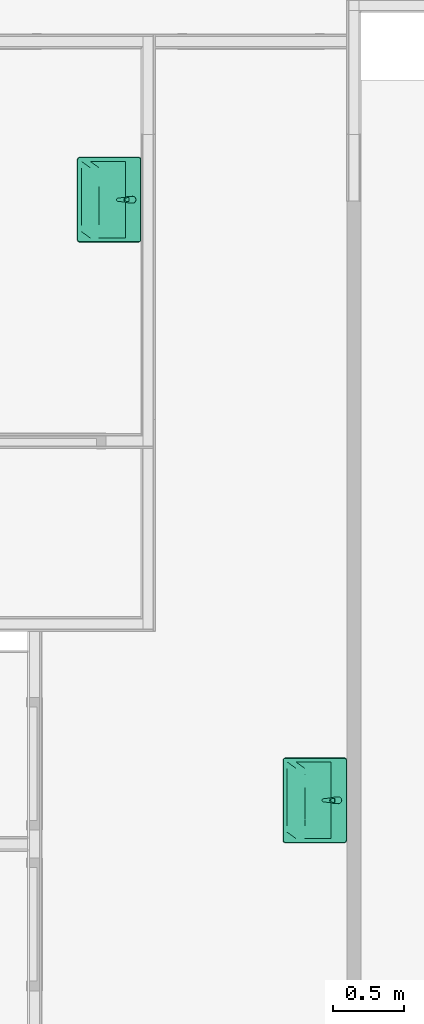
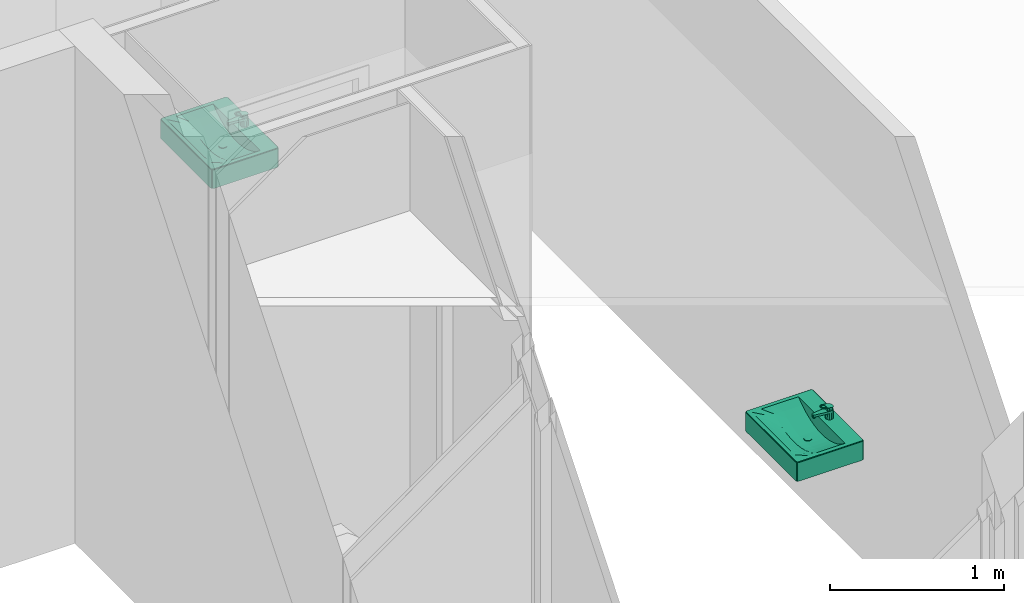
# One storey, part 80 of 99: 2 flow controllers.
"""IFC2X3 building model written with IfcOpenShell, lengths in millimetres."""

from ifc_helpers import new_model, entity, si_unit, converted_unit, derived_unit, money_unit, direction, frame, origin_with_axes, place, context, subcontext, project, spatial, open_shell, faceted_brep, surface_model, source, transform, mapped, type_object, type_shapes, element, save


model = new_model("IFC2X3")

# Units and contexts
model_context = context("Model", 3, precision=0.01, world=origin_with_axes(), true_north=direction((0.0, 1.0)))
body_context = subcontext(model_context, "Body", "Model", "MODEL_VIEW")
ifc_project = project(units=[si_unit("LENGTHUNIT", "METRE", prefix="MILLI"), si_unit("AREAUNIT", "SQUARE_METRE"), si_unit("VOLUMEUNIT", "CUBIC_METRE"), converted_unit("PLANEANGLEUNIT", "DEGREE", entity("IfcPlaneAngleMeasure", 0.0174532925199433), si_unit("PLANEANGLEUNIT", "RADIAN"), dimensions=[0, 0, 0, 0, 0, 0, 0]), money_unit("EUR"), converted_unit("TIMEUNIT", "Year", entity("IfcTimeMeasure", 31557600.0), si_unit("TIMEUNIT", "SECOND"), dimensions=[0, 0, 1, 0, 0, 0, 0]), si_unit("MASSUNIT", "GRAM", prefix="KILO"), si_unit("THERMODYNAMICTEMPERATUREUNIT", "DEGREE_CELSIUS"), si_unit("LUMINOUSINTENSITYUNIT", "LUMEN"), si_unit("ENERGYUNIT", "JOULE", prefix="MEGA"), derived_unit("THERMALCONDUCTANCEUNIT", [(si_unit("POWERUNIT", "WATT"), 1), (si_unit("LENGTHUNIT", "METRE"), -1), (si_unit("THERMODYNAMICTEMPERATUREUNIT", "KELVIN"), -1)]), derived_unit("SPECIFICHEATCAPACITYUNIT", [(si_unit("ENERGYUNIT", "JOULE"), 1), (si_unit("MASSUNIT", "GRAM", prefix="KILO"), -1), (si_unit("THERMODYNAMICTEMPERATUREUNIT", "KELVIN"), -1)]), derived_unit("MASSDENSITYUNIT", [(si_unit("MASSUNIT", "GRAM", prefix="KILO"), 1), (si_unit("VOLUMEUNIT", "CUBIC_METRE"), -1)])], contexts=[model_context])

# Site, building, storey
site_placement = place(None, origin_with_axes())
site = spatial("IfcSite", under=ifc_project, at=site_placement, Name="Site", CompositionType="ELEMENT")
building_placement = place(site_placement, origin_with_axes())
building = spatial("IfcBuilding", under=site, at=building_placement, Name="Naam gebouw", CompositionType="ELEMENT")
storey_placement = place(building_placement, frame((0.0, 0.0, 7650.0), z_axis=(0.0, 0.0, 1.0), x_axis=(1.0, 0.0, 0.0)))
storey = spatial("IfcBuildingStorey", under=building, at=storey_placement, Name="2e verdieping N", CompositionType="ELEMENT", Elevation=7650.0)

# Flow controllers
valve_type = type_object("IfcValveType", Name="Wasbak 27", PredefinedType="NOTDEFINED")
shared_shape = source(origin_with_axes(), body_context, "Body", "SurfaceModel", [
    faceted_brep([(285.0, -450.0, 865.0), (-285.0, -450.0, 865.0), (-292.5, -447.9903810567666, 865.0), (-297.9903810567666, -442.5, 865.0), (-300.0, -435.0, 865.0), (-300.0, -15.00000000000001, 865.0), (-297.9903810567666, -7.500000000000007, 865.0), (-292.5, -2.009618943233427, 865.0), (-285.0, 0.0, 865.0), (285.0, 0.0, 865.0), (292.5, -2.009618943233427, 865.0), (297.9903810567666, -7.500000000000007, 865.0), (300.0, -15.00000000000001, 865.0), (300.0, -435.0, 865.0), (297.9903810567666, -442.5, 865.0), (292.5, -447.9903810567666, 865.0), (-270.0, -420.0000000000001, 865.0), (270.0, -420.0000000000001, 865.0), (270.0, -110.0, 865.0), (-270.0, -110.0, 865.0), (284.9999995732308, -450.0000003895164, 995.0), (-284.9999997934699, -450.0000003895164, 995.0), (-292.5000000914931, -447.9903813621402, 995.0), (-297.9903813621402, -442.5000000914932, 995.0), (-300.0000003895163, -434.99999979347, 995.0), (-300.0000003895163, -14.99999986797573, 995.0), (-297.9903813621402, -7.499999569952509, 995.0), (-292.5000000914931, -2.009619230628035, 995.0), (-284.9999997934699, -2.032518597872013e-07, 995.0), (284.9999995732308, -2.032518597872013e-07, 995.0), (292.499999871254, -2.009619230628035, 995.0), (297.990381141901, -7.499999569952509, 995.0), (300.0000001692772, -14.99999986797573, 995.0), (300.0000001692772, -434.99999979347, 995.0), (297.990381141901, -442.5000000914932, 995.0), (292.499999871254, -447.9903813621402, 995.0), (-270.0, -420.0000000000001, 999.9999996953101), (270.0, -420.0000000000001, 999.9999996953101), (270.0, -110.0, 999.9999996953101), (-270.0, -110.0, 999.9999996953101), (284.9775698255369, -449.8296295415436, 996.2940952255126), (-284.9775700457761, -449.8296295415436, 996.2940952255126), (-292.4118096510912, -447.8376310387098, 996.2940952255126), (-297.8376310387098, -442.4118096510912, 996.2940952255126), (-299.8296295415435, -434.9775700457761, 996.2940952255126), (-299.8296295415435, -15.02242961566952, 996.2940952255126), (-297.8376310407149, -7.588190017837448, 996.2940952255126), (-292.4118096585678, -2.16236955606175, 996.2940952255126), (-284.9775700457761, -0.1703710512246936, 996.2940952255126), (284.9775698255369, -0.1703710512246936, 996.2940952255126), (292.4118094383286, -2.16236955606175, 996.2940952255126), (297.8376308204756, -7.588190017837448, 996.2940952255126), (299.8296293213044, -15.02242961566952, 996.2940952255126), (299.8296293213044, -434.9775700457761, 996.2940952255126), (297.8376308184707, -442.4118096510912, 996.2940952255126), (292.411809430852, -447.8376310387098, 996.2940952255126), (-284.3417376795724, -4.999997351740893, 999.9999996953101), (-289.911811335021, -6.492494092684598, 999.9999996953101), (-293.5075066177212, -10.08818876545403, 999.9999996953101), (-295.0000032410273, -15.6582619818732, 999.9999996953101), (-295.0000032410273, -434.3417376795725, 999.9999996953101), (-293.5075065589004, -439.9118111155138, 999.9999996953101), (-289.9118111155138, -443.5075065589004, 999.9999996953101), (-284.3417376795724, -445.0000032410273, 999.9999996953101), (284.3417374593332, -445.0000032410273, 999.9999996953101), (289.9118108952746, -443.5075065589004, 999.9999996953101), (293.5075063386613, -439.9118111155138, 999.9999996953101), (295.0000030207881, -434.3417376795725, 999.9999996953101), (295.0000030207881, -15.6582619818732, 999.9999996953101), (293.507506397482, -10.08818876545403, 999.9999996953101), (289.9118111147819, -6.492494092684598, 999.9999996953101), (284.3417374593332, -4.999997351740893, 999.9999996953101), (284.8071989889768, -448.5355345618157, 998.5355339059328), (-284.8071992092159, -448.5355345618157, 998.5355339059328), (-291.7419367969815, -446.6773772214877, 998.5355339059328), (-296.6773772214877, -441.7419367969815, 998.5355339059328), (-298.5355345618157, -434.807199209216, 998.5355339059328), (-298.5355345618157, -15.1928004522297, 998.5355339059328), (-296.6773772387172, -8.258062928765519, 998.5355339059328), (-291.7419368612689, -3.322623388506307, 998.5355339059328), (-284.8071992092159, -1.464466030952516, 998.5355339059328), (284.8071989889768, -1.464466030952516, 998.5355339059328), (291.7419366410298, -3.322623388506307, 998.5355339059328), (296.677377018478, -8.258062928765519, 998.5355339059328), (298.5355343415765, -15.1928004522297, 998.5355339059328), (298.5355343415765, -434.807199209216, 998.5355339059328), (296.6773770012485, -441.7419367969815, 998.5355339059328), (291.7419365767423, -446.6773772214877, 998.5355339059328), (-290.5816830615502, -5.332242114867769, 999.8296291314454), (-284.5121082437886, -3.705904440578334, 999.8296291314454), (-294.6677585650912, -9.418316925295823, 999.8296291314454), (-296.2940961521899, -15.487891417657, 999.8296291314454), (-296.2940961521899, -434.5121082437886, 999.8296291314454), (-294.6677585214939, -440.5816828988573, 999.8296291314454), (-290.5816828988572, -444.6677585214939, 999.8296291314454), (-284.5121082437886, -446.2940961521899, 999.8296291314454), (284.5121080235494, -446.2940961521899, 999.8296291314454), (290.5816826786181, -444.6677585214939, 999.8296291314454), (294.6677583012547, -440.5816828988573, 999.8296291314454), (296.2940959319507, -434.5121082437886, 999.8296291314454), (296.2940959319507, -15.487891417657, 999.8296291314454), (294.667758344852, -9.418316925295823, 999.8296291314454), (290.581682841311, -5.332242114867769, 999.8296291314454), (284.5121080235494, -3.705904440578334, 999.8296291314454)], [[[0, 1, 2, 3, 4, 5, 6, 7, 8, 9, 10, 11, 12, 13, 14, 15], [16, 17, 18, 19]], [[0, 20, 21, 1]], [[1, 21, 22, 2]], [[2, 22, 23, 3]], [[3, 23, 24, 4]], [[4, 24, 25, 5]], [[5, 25, 26, 6]], [[6, 26, 27, 7]], [[7, 27, 28, 8]], [[8, 28, 29, 9]], [[9, 29, 30, 10]], [[10, 30, 31, 11]], [[11, 31, 32, 12]], [[12, 32, 33, 13]], [[13, 33, 34, 14]], [[14, 34, 35, 15]], [[15, 35, 20, 0]], [[36, 37, 17, 16]], [[37, 38, 18, 17]], [[38, 39, 19, 18]], [[39, 36, 16, 19]], [[20, 40, 41, 21]], [[21, 41, 42, 22]], [[22, 42, 43, 23]], [[23, 43, 44, 24]], [[24, 44, 45, 25]], [[25, 45, 46, 26]], [[26, 46, 47, 27]], [[27, 47, 48, 28]], [[28, 48, 49, 29]], [[29, 49, 50, 30]], [[30, 50, 51, 31]], [[31, 51, 52, 32]], [[32, 52, 53, 33]], [[33, 53, 54, 34]], [[34, 54, 55, 35]], [[35, 55, 40, 20]], [[56, 57, 58, 59, 60, 61, 62, 63, 64, 65, 66, 67, 68, 69, 70, 71], [36, 39, 38, 37]], [[40, 72, 73, 41]], [[41, 73, 74, 42]], [[42, 74, 75, 43]], [[43, 75, 76, 44]], [[44, 76, 77, 45]], [[45, 77, 78, 46]], [[46, 78, 79, 47]], [[47, 79, 80, 48]], [[48, 80, 81, 49]], [[49, 81, 82, 50]], [[50, 82, 83, 51]], [[51, 83, 84, 52]], [[52, 84, 85, 53]], [[53, 85, 86, 54]], [[54, 86, 87, 55]], [[55, 87, 72, 40]], [[88, 57, 56, 89]], [[90, 58, 57, 88]], [[91, 59, 58, 90]], [[92, 60, 59, 91]], [[93, 61, 60, 92]], [[94, 62, 61, 93]], [[95, 63, 62, 94]], [[96, 64, 63, 95]], [[97, 65, 64, 96]], [[98, 66, 65, 97]], [[99, 67, 66, 98]], [[100, 68, 67, 99]], [[101, 69, 68, 100]], [[102, 70, 69, 101]], [[103, 71, 70, 102]], [[89, 56, 71, 103]], [[72, 96, 95, 73]], [[73, 95, 94, 74]], [[74, 94, 93, 75]], [[75, 93, 92, 76]], [[76, 92, 91, 77]], [[77, 91, 90, 78]], [[78, 90, 88, 79]], [[79, 88, 89, 80]], [[80, 89, 103, 81]], [[81, 103, 102, 82]], [[82, 102, 101, 83]], [[83, 101, 100, 84]], [[84, 100, 99, 85]], [[85, 99, 98, 86]], [[86, 98, 97, 87]], [[87, 97, 96, 72]]]),
    faceted_brep([(-270.0, -420.0000000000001, 865.0), (-270.0, -110.0, 865.0), (270.0, -110.0, 865.0), (270.0, -420.0000000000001, 865.0), (12.49999999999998, -224.368635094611, 865.0), (21.65063509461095, -215.218, 865.0), (25.0, -202.718, 865.0), (21.65063509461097, -190.218, 865.0), (12.50000000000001, -181.067364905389, 865.0), (0.0, -177.718, 865.0), (-12.49999999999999, -181.067364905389, 865.0), (-21.65063509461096, -190.218, 865.0), (-25.0, -202.718, 865.0), (-21.65063509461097, -215.218, 865.0), (-12.50000000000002, -224.368635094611, 865.0), (0.0, -227.718, 865.0), (-270.0, -296.0000000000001, 1000.0), (-270.0, -234.0, 1000.0), (-270.0, -172.0, 1000.0), (-270.0, -110.0, 1000.0), (-270.0, -420.0000000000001, 1000.0), (-270.0, -358.0000000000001, 1000.0), (135.0, -110.0, 922.6004593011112), (180.0000000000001, -110.0, 941.1231796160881), (225.0, -110.0, 966.3832810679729), (270.0, -110.0, 1000.0), (-225.0, -110.0, 966.3832810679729), (-180.0, -110.0, 941.1231796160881), (-135.0, -110.0, 922.6004593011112), (-90.0, -110.0, 909.8887668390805), (-44.99999999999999, -110.0, 902.449942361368), (0.0, -110.0, 900.0), (45.00000000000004, -110.0, 902.449942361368), (90.00000000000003, -110.0, 909.8887668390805), (270.0, -234.0, 1000.0), (270.0, -296.0000000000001, 999.9999999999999), (270.0, -358.0000000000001, 1000.0), (270.0, -420.0000000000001, 1000.0), (270.0, -172.0, 1000.0), (-135.0, -420.0000000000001, 1000.0), (-180.0, -420.0000000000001, 1000.0), (-225.0, -420.0000000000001, 1000.0), (225.0, -420.0000000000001, 1000.0), (180.0000000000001, -420.0000000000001, 1000.0), (135.0, -420.0000000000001, 1000.0), (90.00000000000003, -420.0000000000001, 1000.0), (45.00000000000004, -420.0000000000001, 1000.0), (0.0, -420.0000000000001, 1000.0), (-44.99999999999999, -420.0000000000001, 1000.0), (-90.0, -420.0000000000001, 1000.0), (12.49999999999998, -224.368635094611, 900.6805395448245), (21.65063509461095, -215.218, 901.1787290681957), (25.0, -202.718, 901.3610790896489), (21.65063509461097, -190.218, 901.1787290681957), (12.50000000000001, -181.067364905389, 900.6805395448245), (0.0, -177.718, 900.0), (-12.49999999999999, -181.067364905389, 900.6805395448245), (-21.65063509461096, -190.218, 901.1787290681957), (-25.0, -202.718, 901.3610790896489), (-21.65063509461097, -215.218, 901.1787290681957), (-12.50000000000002, -224.368635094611, 900.6805395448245), (0.0, -227.718, 900.0), (-225.0, -234.0, 966.3832810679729), (-225.0, -172.0, 966.3832810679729), (-225.0, -358.0000000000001, 985.9168845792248), (-225.0, -296.0000000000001, 970.8433791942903), (180.0000000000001, -172.0, 941.1231796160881), (135.0, -172.0, 922.6004593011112), (225.0, -172.0, 966.3832810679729), (-180.0, -172.0, 941.1231796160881), (-135.0, -172.0, 922.6004593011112), (-90.0, -172.0, 909.8887668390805), (-44.99999999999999, -172.0, 902.449942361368), (0.0, -172.0, 900.0), (45.00000000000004, -172.0, 902.449942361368), (90.00000000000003, -172.0, 909.8887668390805), (225.0, -296.0000000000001, 970.8433791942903), (225.0, -358.0000000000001, 985.9168845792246), (225.0, -234.0, 966.3832810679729), (-135.0, -358.0000000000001, 965.8650987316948), (-180.0, -358.0000000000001, 974.5766150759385), (180.0000000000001, -358.0000000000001, 974.5766150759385), (135.0, -358.0000000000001, 965.8650987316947), (90.00000000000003, -358.0000000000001, 959.6989661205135), (45.00000000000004, -358.0000000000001, 956.0213334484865), (0.0, -358.0000000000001, 954.7990813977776), (-44.99999999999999, -358.0000000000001, 956.0213334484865), (-90.0, -358.0000000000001, 959.6989661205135), (0.0, -234.0, 900.0), (45.00000000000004, -234.0, 902.449942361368), (-44.99999999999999, -234.0, 902.449942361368), (-180.0, -234.0, 941.1231796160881), (180.0000000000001, -234.0, 941.1231796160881), (135.0, -234.0, 922.6004593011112), (-135.0, -234.0, 922.6004593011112), (-90.0, -234.0, 909.8887668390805), (90.00000000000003, -234.0, 909.8887668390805), (0.0, -296.0000000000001, 911.4604006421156), (-44.99999999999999, -296.0000000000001, 913.6864730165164), (-180.0, -296.0000000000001, 948.4946543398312), (135.0, -296.0000000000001, 931.904485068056), (180.0000000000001, -296.0000000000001, 948.4946543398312), (-135.0, -296.0000000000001, 931.904485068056), (-90.0, -296.0000000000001, 920.4312036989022), (45.00000000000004, -296.0000000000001, 913.6864730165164), (90.00000000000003, -296.0000000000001, 920.4312036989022)], [[[0, 1, 2, 3], [4, 5, 6, 7, 8, 9, 10, 11, 12, 13, 14, 15]], [[16, 17, 18, 19, 1, 0, 20, 21]], [[22, 23, 24, 25, 2, 1, 19, 26, 27, 28, 29, 30, 31, 32, 33]], [[34, 35, 36, 37, 3, 2, 25, 38]], [[39, 40, 41, 20, 0, 3, 37, 42, 43, 44, 45, 46, 47, 48, 49]], [[50, 51, 5, 4]], [[51, 52, 6, 5]], [[52, 53, 7, 6]], [[53, 54, 8, 7]], [[54, 55, 9, 8]], [[55, 56, 10, 9]], [[56, 57, 11, 10]], [[57, 58, 12, 11]], [[58, 59, 13, 12]], [[59, 60, 14, 13]], [[60, 61, 15, 14]], [[61, 50, 4, 15]], [[16, 62, 17]], [[62, 63, 18, 17]], [[63, 26, 19, 18]], [[20, 64, 21]], [[21, 65, 16]], [[66, 23, 22, 67]], [[68, 24, 23, 66]], [[38, 25, 24, 68]], [[69, 27, 26, 63]], [[70, 28, 27, 69]], [[71, 29, 28, 70]], [[72, 30, 29, 71]], [[73, 31, 30, 72]], [[74, 32, 31, 73]], [[75, 33, 32, 74]], [[67, 22, 33, 75]], [[76, 35, 34]], [[77, 36, 35]], [[42, 37, 36]], [[34, 38, 68, 78]], [[40, 39, 79]], [[41, 40, 80]], [[20, 41, 64]], [[43, 42, 77]], [[44, 43, 81]], [[45, 44, 82]], [[46, 45, 83]], [[47, 46, 84]], [[48, 47, 85]], [[49, 48, 86]], [[39, 49, 87]], [[54, 53, 52, 51, 50, 61, 88, 89, 74, 73, 55]], [[56, 55, 73, 72, 90, 88, 61, 60, 59, 58, 57]], [[16, 65, 62]], [[91, 69, 63, 62]], [[21, 64, 65]], [[92, 66, 67, 93]], [[78, 68, 66, 92]], [[94, 70, 69, 91]], [[95, 71, 70, 94]], [[90, 72, 71, 95]], [[96, 75, 74, 89]], [[93, 67, 75, 96]], [[77, 35, 76]], [[76, 34, 78]], [[42, 36, 77]], [[39, 87, 79]], [[40, 79, 80]], [[41, 80, 64]], [[43, 77, 81]], [[44, 81, 82]], [[45, 82, 83]], [[46, 83, 84]], [[47, 84, 85]], [[48, 85, 86]], [[49, 86, 87]], [[97, 89, 88]], [[98, 88, 90]], [[65, 91, 62]], [[64, 99, 65]], [[100, 92, 93]], [[101, 78, 92]], [[99, 94, 91]], [[102, 95, 94]], [[103, 90, 95]], [[104, 96, 89]], [[105, 93, 96]], [[81, 77, 76]], [[101, 76, 78]], [[79, 87, 103]], [[80, 79, 102]], [[64, 80, 99]], [[82, 81, 101]], [[83, 82, 100]], [[84, 83, 105]], [[85, 84, 104]], [[86, 85, 97]], [[87, 86, 98]], [[97, 104, 89]], [[98, 97, 88]], [[103, 98, 90]], [[65, 99, 91]], [[100, 101, 92]], [[105, 100, 93]], [[99, 102, 94]], [[102, 103, 95]], [[104, 105, 96]], [[81, 76, 101]], [[87, 98, 103]], [[79, 103, 102]], [[80, 102, 99]], [[82, 101, 100]], [[83, 100, 105]], [[84, 105, 104]], [[85, 104, 97]], [[86, 97, 98]]]),
    faceted_brep([(21.65063509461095, -215.218, 900.0), (12.49999999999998, -224.368635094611, 900.0), (0.0, -227.718, 900.0), (-12.50000000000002, -224.368635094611, 900.0), (-21.65063509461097, -215.218, 900.0), (-25.0, -202.718, 900.0), (-21.65063509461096, -190.218, 900.0), (-12.49999999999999, -181.067364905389, 900.0), (0.0, -177.718, 900.0), (12.50000000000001, -181.067364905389, 900.0), (21.65063509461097, -190.218, 900.0), (25.0, -202.718, 900.0), (21.65063509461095, -215.218, 905.0), (12.49999999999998, -224.368635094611, 905.0), (0.0, -227.718, 905.0), (-12.50000000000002, -224.368635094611, 905.0), (-21.65063509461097, -215.218, 905.0), (-25.0, -202.718, 905.0), (-21.65063509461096, -190.218, 905.0), (-12.49999999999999, -181.067364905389, 905.0), (0.0, -177.718, 905.0), (12.50000000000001, -181.067364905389, 905.0), (21.65063509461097, -190.218, 905.0), (25.0, -202.718, 905.0)], [[[0, 1, 2, 3, 4, 5, 6, 7, 8, 9, 10, 11]], [[1, 0, 12, 13]], [[2, 1, 13, 14]], [[3, 2, 14, 15]], [[4, 3, 15, 16]], [[5, 4, 16, 17]], [[6, 5, 17, 18]], [[7, 6, 18, 19]], [[8, 7, 19, 20]], [[9, 8, 20, 21]], [[10, 9, 21, 22]], [[11, 10, 22, 23]], [[0, 11, 23, 12]], [[12, 23, 22, 21, 20, 19, 18, 17, 16, 15, 14, 13]]]),
    surface_model("IfcShellBasedSurfaceModel", [(0.0, -202.718, 907.0), (0.0, -190.09609443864, 906.4975737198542), (-6.310952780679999, -191.7871091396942, 906.4975737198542), (6.310952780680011, -191.7871091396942, 906.4975737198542), (0.0, -177.718, 905.0), (-12.5, -181.067364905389, 905.0), (-10.93089086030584, -196.40704721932, 906.4975737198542), (10.93089086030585, -196.40704721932, 906.4975737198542), (12.50000000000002, -181.067364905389, 905.0), (-21.65063509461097, -190.218, 905.0), (-12.62190556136, -202.718, 906.4975737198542), (12.62190556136, -202.718, 906.4975737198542), (21.65063509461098, -190.218, 905.0), (-25.0, -202.718, 905.0), (-10.93089086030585, -209.02895278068, 906.4975737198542), (10.93089086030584, -209.02895278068, 906.4975737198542), (25.0, -202.718, 905.0), (-21.65063509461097, -215.218, 905.0), (-6.310952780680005, -213.6488908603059, 906.4975737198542), (6.310952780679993, -213.6488908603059, 906.4975737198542), (21.65063509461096, -215.218, 905.0), (-12.50000000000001, -224.368635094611, 905.0), (0.0, -215.33990556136, 906.4975737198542), (12.49999999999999, -224.368635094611, 905.0), (0.0, -227.718, 905.0)], [open_shell([[[0, 1, 2]], [[0, 3, 1]], [[2, 1, 4, 5]], [[0, 2, 6]], [[0, 7, 3]], [[1, 3, 8, 4]], [[6, 2, 5, 9]], [[0, 6, 10]], [[0, 11, 7]], [[3, 7, 12, 8]], [[10, 6, 9, 13]], [[0, 10, 14]], [[0, 15, 11]], [[7, 11, 16, 12]], [[14, 10, 13, 17]], [[0, 14, 18]], [[0, 19, 15]], [[11, 15, 20, 16]], [[18, 14, 17, 21]], [[0, 18, 22]], [[0, 22, 19]], [[15, 19, 23, 20]], [[22, 18, 21, 24]], [[19, 22, 24, 23]]])]),
    faceted_brep([(12.50000000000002, -38.34936490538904, 1000.0), (0.0, -34.99999999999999, 1000.0), (0.0, -38.79807692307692, 1075.961538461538), (10.587322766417, -41.66221905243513, 1076.507089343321), (21.65063509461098, -47.50000000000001, 1000.0), (25.0, -60.00000000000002, 1000.0), (21.65063509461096, -72.50000000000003, 1000.0), (12.49999999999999, -81.65063509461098, 1000.0), (0.0, -84.99999999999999, 1000.0), (-12.50000000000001, -81.65063509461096, 1000.0), (-21.65063509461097, -72.5, 1000.0), (-25.0, -59.99999999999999, 1000.0), (-21.65063509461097, -47.49999999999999, 1000.0), (-12.5, -38.34936490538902, 1000.0), (-10.58732276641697, -41.66221905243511, 1076.507089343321), (-18.27355038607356, -49.44976076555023, 1077.99043062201), (-21.0, -59.99999999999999, 1080.0), (-18.10034137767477, -70.45023696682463, 1081.990521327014), (-10.41410590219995, -78.0377605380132, 1083.435763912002), (0.0, -80.80188679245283, 1083.962264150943), (10.41410590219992, -78.03776053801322, 1083.435763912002), (18.10034137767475, -70.45023696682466, 1081.990521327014), (21.0, -60.00000000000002, 1080.0), (18.27355038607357, -49.44976076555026, 1077.99043062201)], [[[0, 1, 2, 3]], [[0, 4, 5, 6, 7, 8, 9, 10, 11, 12, 13, 1]], [[1, 13, 14, 2]], [[3, 2, 14, 15, 16, 17, 18, 19, 20, 21, 22, 23]], [[4, 0, 3, 23]], [[5, 4, 23, 22]], [[6, 5, 22, 21]], [[7, 6, 21, 20]], [[8, 7, 20, 19]], [[9, 8, 19, 18]], [[10, 9, 18, 17]], [[11, 10, 17, 16]], [[12, 11, 16, 15]], [[13, 12, 15, 14]]]),
    faceted_brep([(9.000000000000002, -163.0, 1035.0), (7.794228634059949, -158.5, 1035.0), (7.794228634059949, -158.5, 1045.0), (9.000000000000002, -163.0, 1045.0), (7.794228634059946, -167.5, 1035.0), (4.499999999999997, -170.79422863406, 1035.0), (0.0, -172.0, 1035.0), (-4.500000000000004, -170.79422863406, 1035.0), (-7.794228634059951, -167.5, 1035.0), (-9.000000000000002, -163.0, 1035.0), (-7.794228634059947, -158.5, 1035.0), (-4.499999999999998, -155.2057713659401, 1035.0), (0.0, -154.0, 1035.0), (4.500000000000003, -155.2057713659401, 1035.0), (4.500000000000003, -155.2057713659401, 1045.0), (0.0, -154.0, 1045.0), (-4.499999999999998, -155.2057713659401, 1045.0), (-7.794228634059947, -158.5, 1045.0), (-9.000000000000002, -163.0, 1045.0), (-7.794228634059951, -167.5, 1045.0), (-4.500000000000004, -170.79422863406, 1045.0), (0.0, -172.0, 1045.0), (4.499999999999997, -170.79422863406, 1045.0), (7.794228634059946, -167.5, 1045.0)], [[[0, 1, 2, 3]], [[0, 4, 5, 6, 7, 8, 9, 10, 11, 12, 13, 1]], [[1, 13, 14, 2]], [[3, 2, 14, 15, 16, 17, 18, 19, 20, 21, 22, 23]], [[4, 0, 3, 23]], [[5, 4, 23, 22]], [[6, 5, 22, 21]], [[7, 6, 21, 20]], [[8, 7, 20, 19]], [[9, 8, 19, 18]], [[10, 9, 18, 17]], [[11, 10, 17, 16]], [[12, 11, 16, 15]], [[13, 12, 15, 14]]]),
    faceted_brep([(-12.87171762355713, -39.74369617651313, 1060.0), (-21.72780530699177, -49.80679463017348, 1060.0), (-23.8054, -63.04989999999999, 1060.0), (-10.9119908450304, -164.3883719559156, 1060.0), (-9.02887546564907, -169.2831941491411, 1060.0), (-5.093324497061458, -172.7497264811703, 1060.0), (3.626798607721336e-05, -173.9999600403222, 1060.0), (5.093388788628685, -172.7496928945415, 1060.0), (9.02891689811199, -169.2831346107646, 1060.0), (10.912, -164.3883, 1060.0), (23.80539974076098, -63.04990202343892, 1060.0), (21.72780617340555, -49.80679647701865, 1060.0), (12.87171934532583, -39.74369727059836, 1060.0), (1.019988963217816e-06, -36.00002168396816, 1060.0), (11.00000000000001, -40.94744111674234, 1060.0), (19.05255888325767, -48.99999999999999, 1060.0), (22.00000000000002, -60.0, 1060.0), (19.05255888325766, -71.00000000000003, 1060.0), (10.99999999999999, -79.05255888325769, 1060.0), (0.0, -82.0, 1060.0), (-11.00000000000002, -79.05255888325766, 1060.0), (-19.05255888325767, -70.99999999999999, 1060.0), (-22.00000000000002, -59.99999999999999, 1060.0), (-19.05255888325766, -48.99999999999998, 1060.0), (-11.0, -40.94744111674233, 1060.0), (0.0, -37.99999999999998, 1060.0), (-21.72780530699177, -49.80679463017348, 1045.0), (-12.87171762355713, -39.74369617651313, 1045.0), (-23.8054, -63.04989999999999, 1045.0), (-10.9119908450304, -164.3883719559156, 1045.0), (-9.02887546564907, -169.2831941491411, 1045.0), (-5.093324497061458, -172.7497264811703, 1045.0), (3.626798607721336e-05, -173.9999600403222, 1045.0), (5.093388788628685, -172.7496928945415, 1045.0), (9.02891689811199, -169.2831346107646, 1045.0), (10.912, -164.3883, 1045.0), (23.80539974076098, -63.04990202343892, 1045.0), (21.72780617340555, -49.80679647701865, 1045.0), (12.87171934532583, -39.74369727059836, 1045.0), (1.019988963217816e-06, -36.00002168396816, 1045.0), (11.37500000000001, -40.297922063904, 1045.0), (19.70207793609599, -48.62499999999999, 1045.0), (22.75000000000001, -60.0, 1045.0), (19.70207793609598, -71.37500000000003, 1045.0), (11.37499999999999, -79.702077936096, 1045.0), (0.0, -82.75, 1045.0), (-11.37500000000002, -79.70207793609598, 1045.0), (-19.70207793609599, -71.375, 1045.0), (-22.75000000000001, -59.99999999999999, 1045.0), (-19.70207793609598, -48.62499999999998, 1045.0), (-11.375, -40.297922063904, 1045.0), (0.0, -37.24999999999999, 1045.0)], [[[0, 1, 2, 3, 4, 5, 6, 7, 8, 9, 10, 11, 12, 13], [14, 15, 16, 17, 18, 19, 20, 21, 22, 23, 24, 25]], [[26, 1, 0, 27]], [[28, 2, 1, 26]], [[29, 3, 2, 28]], [[30, 4, 3, 29]], [[31, 5, 4, 30]], [[32, 6, 5, 31]], [[33, 7, 6, 32]], [[34, 8, 7, 33]], [[35, 9, 8, 34]], [[36, 10, 9, 35]], [[37, 11, 10, 36]], [[38, 12, 11, 37]], [[39, 13, 12, 38]], [[27, 0, 13, 39]], [[40, 41, 15, 14]], [[41, 42, 16, 15]], [[42, 43, 17, 16]], [[43, 44, 18, 17]], [[44, 45, 19, 18]], [[20, 19, 45, 46]], [[21, 20, 46, 47]], [[22, 21, 47, 48]], [[23, 22, 48, 49]], [[24, 23, 49, 50]], [[50, 51, 25, 24]], [[51, 40, 14, 25]], [[32, 31, 30, 29, 28, 26, 27, 39, 38, 37, 36, 35, 34, 33], [44, 43, 42, 41, 40, 51, 50, 49, 48, 47, 46, 45]]]),
    faceted_brep([(23.893, -61.69256934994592, 1080.322394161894), (21.29642141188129, -49.22528119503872, 1077.947672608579), (21.29642141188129, -48.47683276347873, 1081.877026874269), (23.893, -60.94412091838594, 1084.251748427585), (20.94593649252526, -101.8367022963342, 1087.968895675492), (17.66313911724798, -111.514366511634, 1089.81226028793), (10.06143529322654, -118.4637460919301, 1091.135951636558), (-0.0004426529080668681, -120.9856119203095, 1091.61630703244), (-10.06221236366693, -118.4633294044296, 1091.13587226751), (-17.66361794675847, -111.5136350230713, 1089.812120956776), (-20.946, -101.8358348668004, 1087.968730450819), (-23.89302047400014, -61.69229042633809, 1080.322341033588), (-21.29629106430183, -49.22503258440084, 1077.947625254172), (-12.4716815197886, -39.90880255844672, 1076.173105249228), (0.0001423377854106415, -36.46803549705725, 1075.517721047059), (12.47192457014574, -39.90894815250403, 1076.173132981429), (14.0, -85.54080272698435, 1084.86491480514), (-14.0, -85.54080272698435, 1084.86491480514), (-14.0, -100.3564329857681, 1087.686939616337), (-12.12435565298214, -107.2328029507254, 1088.996724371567), (-7.000000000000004, -112.2666551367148, 1089.955553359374), (0.0, -114.1091729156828, 1090.306509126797), (6.999999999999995, -112.2666551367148, 1089.955553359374), (12.12435565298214, -107.2328029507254, 1088.996724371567), (14.0, -100.3564329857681, 1087.686939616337), (12.47192457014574, -39.16049972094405, 1080.102487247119), (0.0001423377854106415, -35.71958706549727, 1079.447075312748), (-12.4716815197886, -39.16035412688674, 1080.102459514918), (-21.29629106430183, -48.47658415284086, 1081.876979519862), (-23.89302047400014, -60.9438419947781, 1084.251695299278), (-20.946, -101.0873864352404, 1091.898084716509), (-17.66361794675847, -110.7651865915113, 1093.741475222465), (-10.06221236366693, -117.7148809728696, 1095.0652265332), (-0.0004426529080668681, -120.2371634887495, 1095.54566129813), (10.06143529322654, -117.7152976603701, 1095.065305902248), (17.66313911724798, -110.765918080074, 1093.74161455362), (20.94593649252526, -101.0882538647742, 1091.898249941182), (14.0, -84.79235429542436, 1088.79426907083), (14.0, -99.60798455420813, 1091.616293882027), (12.12435565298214, -106.4843545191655, 1092.926078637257), (6.999999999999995, -111.5182067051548, 1093.884907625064), (0.0, -113.3607244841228, 1094.235863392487), (-7.000000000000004, -111.5182067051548, 1093.884907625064), (-12.12435565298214, -106.4843545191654, 1092.926078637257), (-14.0, -99.60798455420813, 1091.616293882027), (-14.0, -84.79235429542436, 1088.79426907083)], [[[0, 1, 2, 3]], [[0, 4, 5, 6, 7, 8, 9, 10, 11, 12, 13, 14, 15, 1], [16, 17, 18, 19, 20, 21, 22, 23, 24]], [[1, 15, 25, 2]], [[3, 2, 25, 26, 27, 28, 29, 30, 31, 32, 33, 34, 35, 36], [37, 38, 39, 40, 41, 42, 43, 44, 45]], [[4, 0, 3, 36]], [[5, 4, 36, 35]], [[6, 5, 35, 34]], [[7, 6, 34, 33]], [[8, 7, 33, 32]], [[9, 8, 32, 31]], [[10, 9, 31, 30]], [[11, 10, 30, 29]], [[12, 11, 29, 28]], [[13, 12, 28, 27]], [[14, 13, 27, 26]], [[15, 14, 26, 25]], [[17, 16, 37, 45]], [[18, 17, 45, 44]], [[19, 18, 44, 43]], [[20, 19, 43, 42]], [[21, 20, 42, 41]], [[22, 21, 41, 40]], [[23, 22, 40, 39]], [[24, 23, 39, 38]], [[16, 24, 38, 37]]]),
])
type_shapes(valve_type, [shared_shape])
for number, where, z_axis, x_axis, name in (
    (1, (2099.999999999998, 9486.040902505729, -150.0000000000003), (0.0, 0.0, 1.0), (0.0, -1.0, 0.0), "_Sanitair-x"),
    (2, (3549.999999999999, 5253.147259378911, -150.0000000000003), (0.0, 0.0, 1.0), (0.0, -1.0, 0.0), "_Sanitair-x"),
):
    element("IfcFlowController", number, at=place(storey_placement, frame(where, z_axis=z_axis, x_axis=x_axis)), inside=storey, type_object=valve_type, Name=name, ObjectType="Electric Distribution Board", context=body_context, shape_type="MappedRepresentation", body=[
        mapped(shared_shape, transform((0.0, 0.0, 0.0))),
    ])

save(model, "model.ifc")
